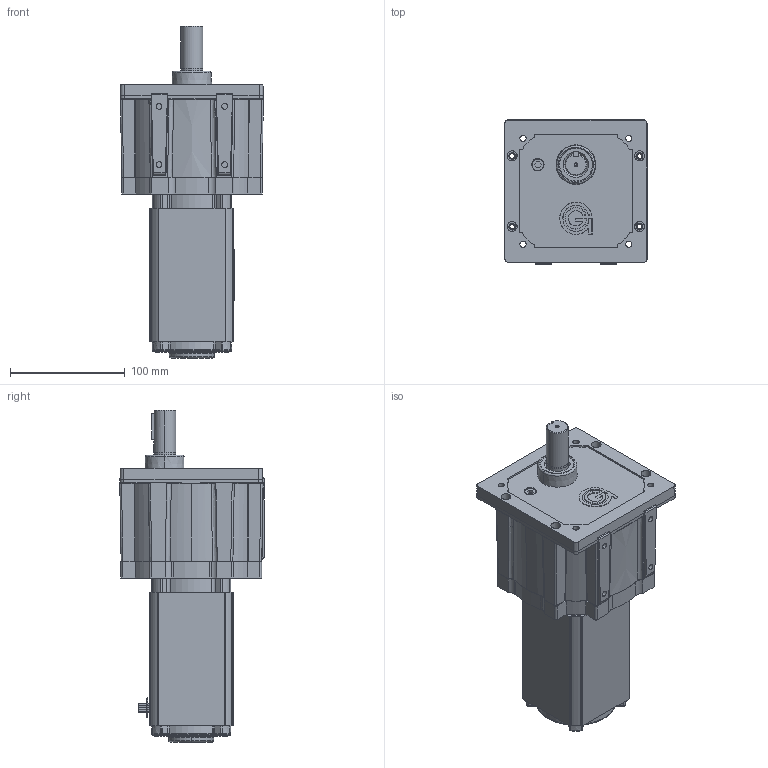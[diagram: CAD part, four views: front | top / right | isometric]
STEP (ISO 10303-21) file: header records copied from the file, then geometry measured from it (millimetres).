
FILE_DESCRIPTION (( 'STEP AP214' ), '1' );
FILE_NAME ('BL6540-PS2300.STEP', '2016-04-28T20:13:42', ( '' ), ( '' ), 'SwSTEP 2.0', 'SolidWorks 2015', '' );
FILE_SCHEMA (( 'AUTOMOTIVE_DESIGN' ));
Length unit declared in the file: millimetre
Products named in the file (1): BL6540-PS2300
Bounding box: 124.56 x 125.69 x 288.87 mm (x, y, z)
Surface area: 175144.2 mm2 (no closed solid volume)
Topology: 0 solids, 49 shells, 860 faces, 2973 edges, 2114 vertices
Faces by surface type: cylinder 324, plane 238, cone 127, torus 100, bspline 57, sphere 14
Entity records: 47096 total; most frequent: CARTESIAN_POINT 12847, DIRECTION 5103, ORIENTED_EDGE 4882, EDGE_CURVE 2969, VERTEX_POINT 2114, AXIS2_PLACEMENT_3D 1948, VECTOR 1207, LINE 1207
